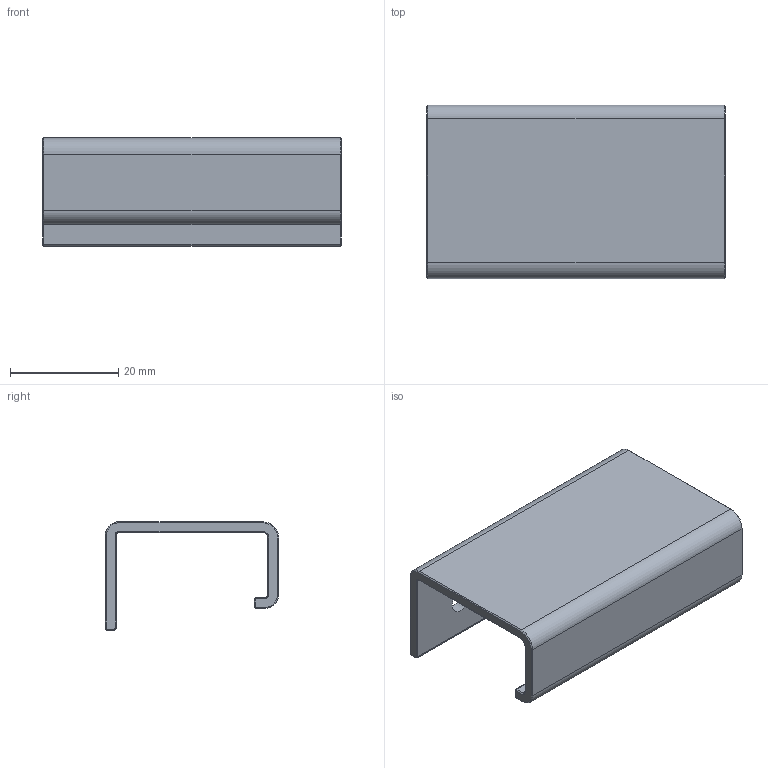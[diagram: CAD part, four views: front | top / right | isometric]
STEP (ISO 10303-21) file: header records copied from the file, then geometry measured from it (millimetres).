
FILE_DESCRIPTION(('Open CASCADE Model'),'2;1');
FILE_NAME('FL-LIP-55','2026-10-19T21:24:00',('Author'),('Open CASCADE'), 'Open CASCADE STEP processor 8.0','build123d','Unknown');
FILE_SCHEMA(('AUTOMOTIVE_DESIGN { 1 0 10303 214 1 1 1 1 }'));
Length unit declared in the file: millimetre
Products named in the file (2): FL-LIP-55; brass_FL-LIP55-18__e
Assembly tree (1 placements, depth 2):
  FL-LIP-55
    brass_FL-LIP55-18__e
Bounding box: 55 x 32 x 20 mm (x, y, z)
Volume: 6997.8 mm3; surface area: 7475.3 mm2
Topology: 1 solids, 1 shells, 64 faces, 146 edges, 84 vertices
Faces by surface type: plane 32, cone 20, cylinder 12
Full cylindrical faces by diameter (mm): 4.5 x2
Entity records: 3656 total; most frequent: CARTESIAN_POINT 764, DIRECTION 518, ORIENTED_EDGE 292, PCURVE 292, DEFINITIONAL_REPRESENTATION 292, LINE 290, VECTOR 290, EDGE_CURVE 146
